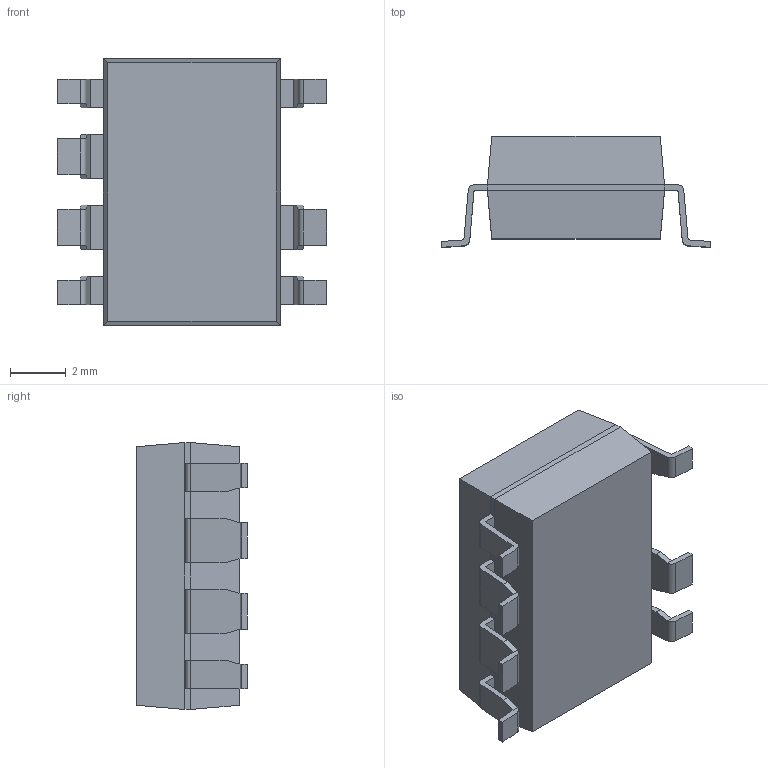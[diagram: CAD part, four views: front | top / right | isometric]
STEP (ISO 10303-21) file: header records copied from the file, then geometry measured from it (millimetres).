
FILE_DESCRIPTION (( 'STEP AP214' ), '1' );
FILE_NAME ('LNK306GN-TL.STEP', '2023-10-25T15:01:28', ( '' ), ( '' ), 'SwSTEP 2.0', 'SolidWorks 2021', '' );
FILE_SCHEMA (( 'AUTOMOTIVE_DESIGN' ));
Length unit declared in the file: millimetre
Products named in the file (1): LNK306GN-TL
Bounding box: 9.65 x 3.98 x 9.57 mm (x, y, z)
Volume: 220.7 mm3; surface area: 298.1 mm2
Topology: 8 solids, 8 shells, 135 faces, 339 edges, 220 vertices
Faces by surface type: plane 105, cylinder 30
Entity records: 4076 total; most frequent: CARTESIAN_POINT 731, ORIENTED_EDGE 678, DIRECTION 649, EDGE_CURVE 339, VECTOR 277, LINE 277, VERTEX_POINT 220, AXIS2_PLACEMENT_3D 186
